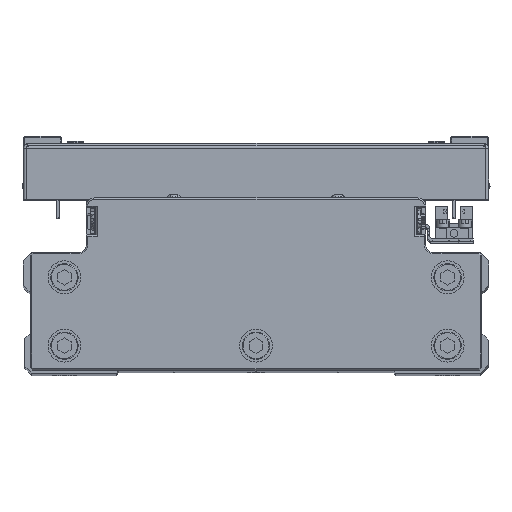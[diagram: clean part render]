
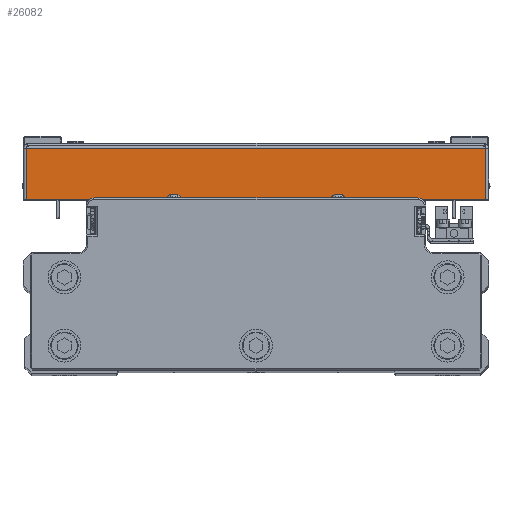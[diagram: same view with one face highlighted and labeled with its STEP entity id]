
A CAD part, top view. The second image highlights one B-rep face of the part: STEP entity #26082.
In plain terms, the highlighted planar face has unit normal (0, 0, 1) as drawn and (1, 0, 0) by its records, which use the part's own axes.
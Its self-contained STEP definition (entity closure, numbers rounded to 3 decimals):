
#1403 = ORIENTED_EDGE ( 'NONE', *, *, #13544, .F. ) ;
#1461 = LINE ( 'NONE', #15241, #30827 ) ;
#3191 = AXIS2_PLACEMENT_3D ( 'NONE', #4971, #18742, #32488 ) ;
#3365 = CARTESIAN_POINT ( 'NONE',  ( 110., 19.5, 83.929 ) ) ;
#3723 = LINE ( 'NONE', #17495, #27085 ) ;
#3931 = CARTESIAN_POINT ( 'NONE',  ( 110., 1., 83.929 ) ) ;
#4339 = VECTOR ( 'NONE', #38404, 1000. ) ;
#4971 = CARTESIAN_POINT ( 'NONE',  ( 110., 0., 0. ) ) ;
#7494 = CARTESIAN_POINT ( 'NONE',  ( 110., 0., -83.929 ) ) ;
#9362 = VERTEX_POINT ( 'NONE', #3365 ) ;
#9383 = CARTESIAN_POINT ( 'NONE',  ( 110., 1., -83.929 ) ) ;
#10351 = VECTOR ( 'NONE', #21252, 1000. ) ;
#10898 = LINE ( 'NONE', #24648, #4339 ) ;
#13544 = EDGE_CURVE ( 'NONE', #17000, #9362, #1461, .T. ) ;
#15241 = CARTESIAN_POINT ( 'NONE',  ( 110., 0., 83.929 ) ) ;
#16804 = EDGE_LOOP ( 'NONE', ( #38582, #31309, #21682, #1403 ) ) ;
#17000 = VERTEX_POINT ( 'NONE', #3931 ) ;
#17470 = EDGE_CURVE ( 'NONE', #41851, #21896, #38378, .T. ) ;
#17495 = CARTESIAN_POINT ( 'NONE',  ( 110., 1., 85. ) ) ;
#18742 = DIRECTION ( 'NONE',  ( -1., 0., 0. ) ) ;
#21252 = DIRECTION ( 'NONE',  ( 0., 1., 0. ) ) ;
#21682 = ORIENTED_EDGE ( 'NONE', *, *, #38317, .T. ) ;
#21896 = VERTEX_POINT ( 'NONE', #22666 ) ;
#22118 = FACE_OUTER_BOUND ( 'NONE', #16804, .T. ) ;
#22666 = CARTESIAN_POINT ( 'NONE',  ( 110., 19.5, -83.929 ) ) ;
#24648 = CARTESIAN_POINT ( 'NONE',  ( 110., 19.5, 0. ) ) ;
#26082 = ADVANCED_FACE ( 'NONE', ( #22118 ), #35865, .F. ) ;
#27085 = VECTOR ( 'NONE', #31256, 1000. ) ;
#28964 = DIRECTION ( 'NONE',  ( 0., 1., 0. ) ) ;
#30827 = VECTOR ( 'NONE', #28964, 1000. ) ;
#31256 = DIRECTION ( 'NONE',  ( 0., 0., 1. ) ) ;
#31309 = ORIENTED_EDGE ( 'NONE', *, *, #17470, .T. ) ;
#32488 = DIRECTION ( 'NONE',  ( 0., -1., 0. ) ) ;
#33611 = EDGE_CURVE ( 'NONE', #41851, #17000, #3723, .T. ) ;
#35865 = PLANE ( 'NONE',  #3191 ) ;
#38317 = EDGE_CURVE ( 'NONE', #21896, #9362, #10898, .T. ) ;
#38378 = LINE ( 'NONE', #7494, #10351 ) ;
#38404 = DIRECTION ( 'NONE',  ( 0., 0., 1. ) ) ;
#38582 = ORIENTED_EDGE ( 'NONE', *, *, #33611, .F. ) ;
#41851 = VERTEX_POINT ( 'NONE', #9383 ) ;
